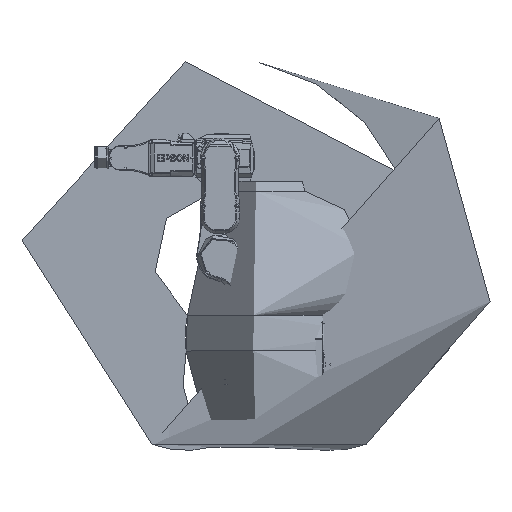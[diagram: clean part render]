
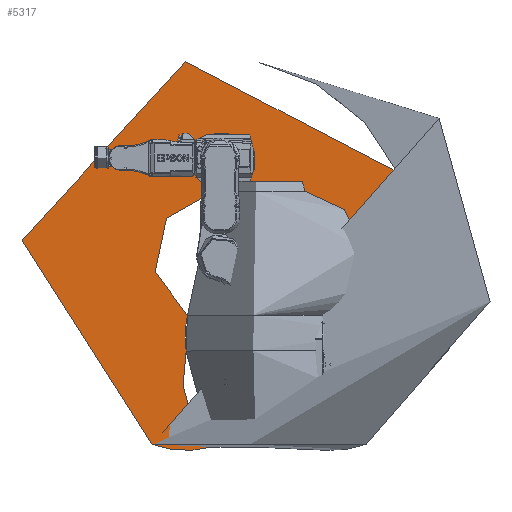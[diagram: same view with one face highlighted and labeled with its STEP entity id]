
A CAD part, top view. The second image highlights one B-rep face of the part: STEP entity #5317.
In plain terms, the highlighted planar face has unit normal (0, 0, 1).
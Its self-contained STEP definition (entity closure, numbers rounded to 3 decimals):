
#5317 = ADVANCED_FACE( '', ( #11663 ), #11664, .T. );
#11663 = FACE_OUTER_BOUND( '', #20143, .T. );
#11664 = PLANE( '', #20144 );
#20143 = EDGE_LOOP( '', ( #35360, #35361, #35362, #35363, #35364, #35365, #35366, #35367, #35368 ) );
#20144 = AXIS2_PLACEMENT_3D( '', #35369, #35370, #35371 );
#35360 = ORIENTED_EDGE( '', *, *, #44575, .T. );
#35361 = ORIENTED_EDGE( '', *, *, #47359, .T. );
#35362 = ORIENTED_EDGE( '', *, *, #44460, .T. );
#35363 = ORIENTED_EDGE( '', *, *, #47360, .F. );
#35364 = ORIENTED_EDGE( '', *, *, #47361, .F. );
#35365 = ORIENTED_EDGE( '', *, *, #47231, .F. );
#35366 = ORIENTED_EDGE( '', *, *, #46996, .T. );
#35367 = ORIENTED_EDGE( '', *, *, #47362, .F. );
#35368 = ORIENTED_EDGE( '', *, *, #46634, .F. );
#35369 = CARTESIAN_POINT( '', ( 226.577, 105.655, 5. ) );
#35370 = DIRECTION( '', ( 0., 0., 1. ) );
#35371 = DIRECTION( '', ( 1., 0., 0. ) );
#44460 = EDGE_CURVE( '', #53678, #53676, #53679, .T. );
#44575 = EDGE_CURVE( '', #53869, #53867, #53870, .T. );
#46634 = EDGE_CURVE( '', #53869, #56787, #56788, .T. );
#46996 = EDGE_CURVE( '', #57251, #57249, #57252, .T. );
#47231 = EDGE_CURVE( '', #57251, #57529, #57530, .T. );
#47359 = EDGE_CURVE( '', #53867, #53678, #57685, .T. );
#47360 = EDGE_CURVE( '', #57686, #53676, #57687, .T. );
#47361 = EDGE_CURVE( '', #57529, #57686, #57688, .T. );
#47362 = EDGE_CURVE( '', #56787, #57249, #57689, .T. );
#53676 = VERTEX_POINT( '', #67389 );
#53678 = VERTEX_POINT( '', #67392 );
#53679 = CIRCLE( '', #67393, 250. );
#53867 = VERTEX_POINT( '', #67679 );
#53869 = VERTEX_POINT( '', #67682 );
#53870 = CIRCLE( '', #67683, 250. );
#56787 = VERTEX_POINT( '', #72667 );
#56788 = CIRCLE( '', #72668, 250. );
#57249 = VERTEX_POINT( '', #73502 );
#57251 = VERTEX_POINT( '', #73505 );
#57252 = LINE( '', #73506, #73507 );
#57529 = VERTEX_POINT( '', #73959 );
#57530 = CIRCLE( '', #73960, 167. );
#57685 = CIRCLE( '', #74282, 500. );
#57686 = VERTEX_POINT( '', #74283 );
#57687 = CIRCLE( '', #74284, 250. );
#57688 = CIRCLE( '', #74285, 250. );
#57689 = CIRCLE( '', #74286, 191.5 );
#67389 = CARTESIAN_POINT( '', ( -20.801, -476.405, 5. ) );
#67392 = CARTESIAN_POINT( '', ( -171.01, -469.846, 5. ) );
#67393 = AXIS2_PLACEMENT_3D( '', #80312, #80313, #80314 );
#67679 = CARTESIAN_POINT( '', ( 453.357, 210.873, 5. ) );
#67682 = CARTESIAN_POINT( '', ( 351.577, -110.852, 5. ) );
#67683 = AXIS2_PLACEMENT_3D( '', #80484, #80485, #80486 );
#72667 = CARTESIAN_POINT( '', ( 176.971, 73.168, 5. ) );
#72668 = AXIS2_PLACEMENT_3D( '', #82939, #82940, #82941 );
#73502 = CARTESIAN_POINT( '', ( -8.297, 191.32, 5. ) );
#73505 = CARTESIAN_POINT( '', ( -15.966, 166.235, 5. ) );
#73506 = CARTESIAN_POINT( '', ( -15.966, 166.235, 5. ) );
#73507 = VECTOR( '', #83304, 1000. );
#73959 = CARTESIAN_POINT( '', ( -82.209, -145.364, 5. ) );
#73960 = AXIS2_PLACEMENT_3D( '', #83523, #83524, #83525 );
#74282 = AXIS2_PLACEMENT_3D( '', #83639, #83640, #83641 );
#74283 = CARTESIAN_POINT( '', ( -85.505, -234.922, 5. ) );
#74284 = AXIS2_PLACEMENT_3D( '', #83642, #83643, #83644 );
#74285 = AXIS2_PLACEMENT_3D( '', #83645, #83646, #83647 );
#74286 = AXIS2_PLACEMENT_3D( '', #83648, #83649, #83650 );
#80312 = CARTESIAN_POINT( '', ( -85.505, -234.923, 5. ) );
#80313 = DIRECTION( '', ( 0., 0., 1. ) );
#80314 = DIRECTION( '', ( 1., 0., 0. ) );
#80484 = CARTESIAN_POINT( '', ( 226.577, 105.655, 5. ) );
#80485 = DIRECTION( '', ( 0., 0., 1. ) );
#80486 = DIRECTION( '', ( 1., 0., 0. ) );
#82939 = CARTESIAN_POINT( '', ( 107.993, -167.128, 5. ) );
#82940 = DIRECTION( '', ( 0., 0., 1. ) );
#82941 = DIRECTION( '', ( 1., 0., 0. ) );
#83304 = DIRECTION( '', ( 0.292, 0.956, 0. ) );
#83523 = CARTESIAN_POINT( '', ( 0., 0., 5. ) );
#83524 = DIRECTION( '', ( 0., 0., 1. ) );
#83525 = DIRECTION( '', ( 1., 0., 0. ) );
#83639 = CARTESIAN_POINT( '', ( 0., 0., 5. ) );
#83640 = DIRECTION( '', ( 0., 0., 1. ) );
#83641 = DIRECTION( '', ( 1., 0., 0. ) );
#83642 = CARTESIAN_POINT( '', ( 155.976, -299.628, 5. ) );
#83643 = DIRECTION( '', ( 0., 0., 1. ) );
#83644 = DIRECTION( '', ( 1., 0., 0. ) );
#83645 = CARTESIAN_POINT( '', ( 161.928, -199.189, 5. ) );
#83646 = DIRECTION( '', ( 0., 0., 1. ) );
#83647 = DIRECTION( '', ( 1., 0., 0. ) );
#83648 = CARTESIAN_POINT( '', ( 0., 0., 5. ) );
#83649 = DIRECTION( '', ( 0., 0., 1. ) );
#83650 = DIRECTION( '', ( 1., 0., 0. ) );
